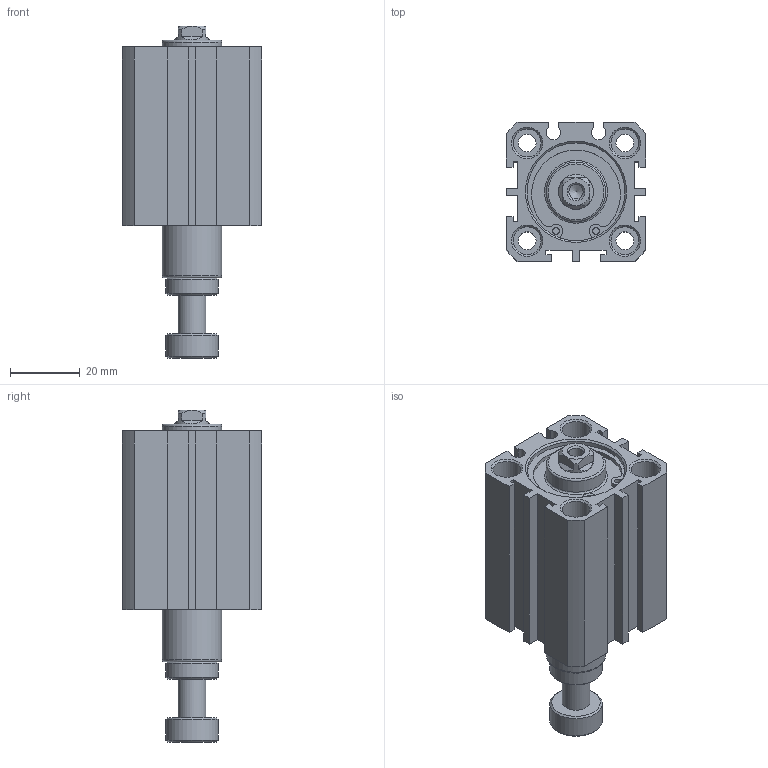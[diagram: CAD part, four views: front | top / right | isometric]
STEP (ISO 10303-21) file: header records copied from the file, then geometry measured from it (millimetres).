
FILE_DESCRIPTION((''),'2;1');
FILE_NAME('I:\3D電子目錄\氣缸\JDAR\JDAR\JDAR25\JDAR25x30.stp','2007-03-14T09:45:56',('662F206'),(''),'Autodesk Inventor 11','Autodesk Inventor 11','');
FILE_SCHEMA(('AUTOMOTIVE_DESIGN { 1 0 10303 214 1 1 1 1 }'));
Length unit declared in the file: millimetre
Products named in the file (3): JDAR25; R 形環 28
Assembly tree (3 placements, depth 2):
  JDAR25
    JDAR25
    R 形環 28  x2
Bounding box: 40 x 40 x 95.1 mm (x, y, z)
Volume: 71182.6 mm3; surface area: 22700.6 mm2
Topology: 3 solids, 3 shells, 165 faces, 384 edges, 249 vertices
Faces by surface type: plane 86, cylinder 48, cone 21, bspline 8, torus 2
Full cylindrical faces by diameter (mm): 1.5 x2, 1.9 x4, 5.1 x4, 8 x9, 10 x1, 15 x2, 17 x2, 28 x4, 29.4 x2
Entity records: 4249 total; most frequent: CARTESIAN_POINT 853, DIRECTION 706, ORIENTED_EDGE 588, EDGE_CURVE 294, AXIS2_PLACEMENT_3D 269, EDGE_LOOP 242, VERTEX_POINT 222, VECTOR 168
